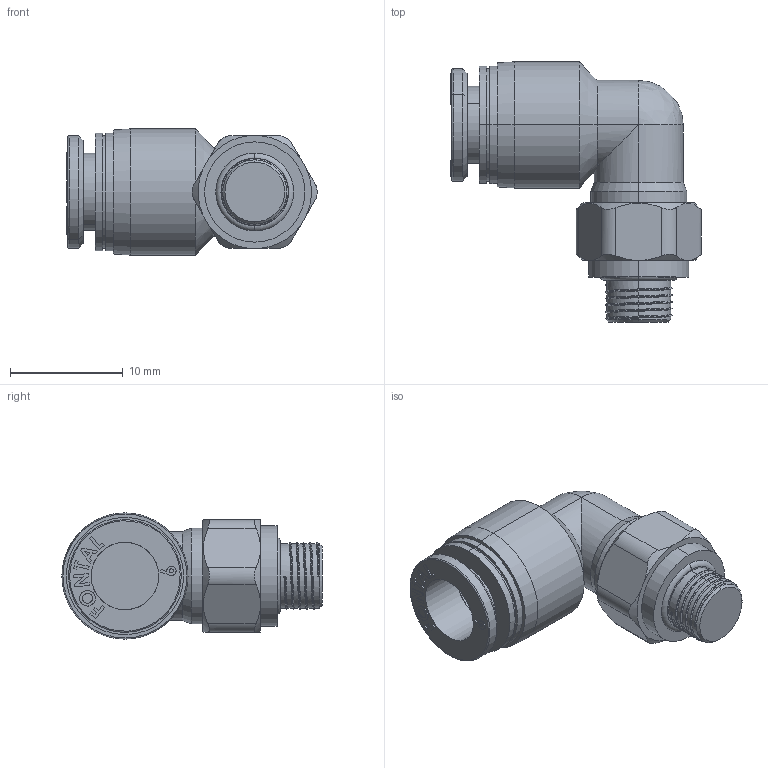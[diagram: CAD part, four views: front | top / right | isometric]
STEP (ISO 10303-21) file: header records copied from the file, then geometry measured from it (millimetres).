
FILE_DESCRIPTION (( 'STEP AP203' ), '1' );
FILE_NAME ('FPL6-M6.STEP', '2016-01-14T21:04:26', ( '' ), ( '' ), 'SwSTEP 2.0', 'SolidWorks 2014', '' );
FILE_SCHEMA (( 'CONFIG_CONTROL_DESIGN' ));
Length unit declared in the file: millimetre
Products named in the file (4): FPL6-M6; FPL6-M6-B; FPL6-01-A; FPC6-M5-A
Assembly tree (3 placements, depth 2):
  FPL6-M6
    FPL6-01-A
    FPC6-M5-A
    FPL6-M6-B
Bounding box: 22.22 x 23.1 x 11.2 mm (x, y, z)
Volume: 1857.4 mm3; surface area: 1722.3 mm2
Topology: 3 solids, 3 shells, 182 faces, 452 edges, 294 vertices
Faces by surface type: plane 83, cylinder 44, bspline 33, cone 18, torus 4
Entity records: 7767 total; most frequent: CARTESIAN_POINT 3327, ORIENTED_EDGE 900, DIRECTION 735, EDGE_CURVE 450, VERTEX_POINT 294, VECTOR 245, AXIS2_PLACEMENT_3D 245, LINE 245
